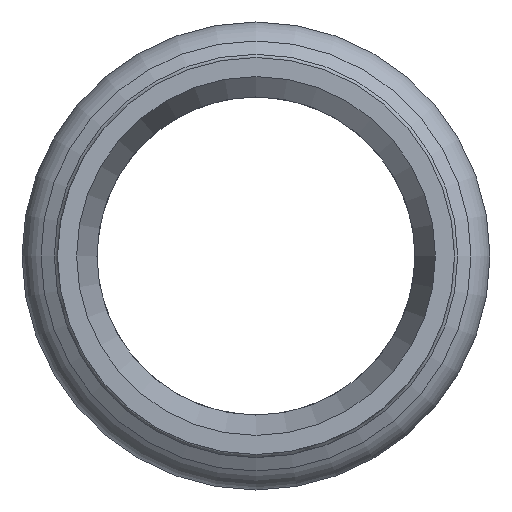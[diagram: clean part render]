
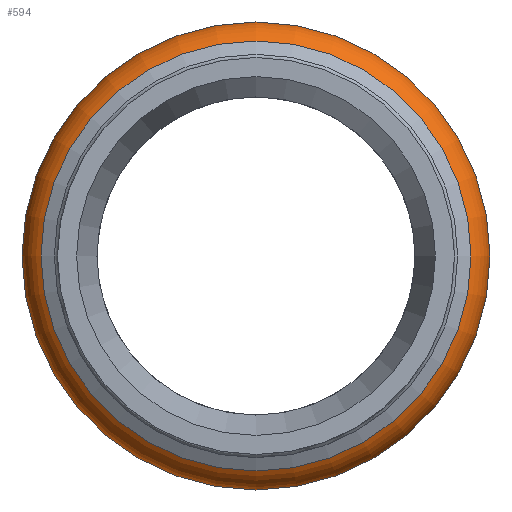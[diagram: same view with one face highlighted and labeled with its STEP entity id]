
A CAD part, left-side view. The second image highlights one B-rep face of the part: STEP entity #594.
In plain terms, the highlighted toroidal (fillet/blend) face has major radius 15.4 mm and minor radius 3 mm.
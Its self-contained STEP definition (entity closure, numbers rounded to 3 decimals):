
#424=CARTESIAN_POINT('',(-29.061,16.0,0.0));
#425=VERTEX_POINT('',#424);
#426=CARTESIAN_POINT('',(-29.061,0.,0.0));
#427=DIRECTION('',(1.0,0.0,0.0));
#428=DIRECTION('',(0.0,-1.0,0.0));
#429=AXIS2_PLACEMENT_3D('',#426,#427,#428);
#430=CIRCLE('',#429,16.);
#431=EDGE_CURVE('',#425,#425,#430,.T.);
#568=CARTESIAN_POINT('',(-34.598,16.9,0.0));
#569=VERTEX_POINT('',#568);
#570=CARTESIAN_POINT('',(-34.598,0.,0.0));
#571=DIRECTION('',(1.0,0.0,0.0));
#572=DIRECTION('',(0.0,1.0,0.0));
#573=AXIS2_PLACEMENT_3D('',#570,#571,#572);
#574=CIRCLE('',#573,16.9);
#575=EDGE_CURVE('',#569,#569,#574,.T.);
#583=CARTESIAN_POINT('',(-32.,0.,0.0));
#584=DIRECTION('',(1.0,0.,0.0));
#585=DIRECTION('',(0.0,0.0,-1.0));
#586=AXIS2_PLACEMENT_3D('',#583,#584,#585);
#587=TOROIDAL_SURFACE('',#586,15.4,3.);
#588=ORIENTED_EDGE('',*,*,#575,.T.);
#589=EDGE_LOOP('',(#588));
#590=FACE_OUTER_BOUND('',#589,.T.);
#591=ORIENTED_EDGE('',*,*,#431,.F.);
#592=EDGE_LOOP('',(#591));
#593=FACE_BOUND('',#592,.T.);
#594=ADVANCED_FACE('',(#590,#593),#587,.T.);
